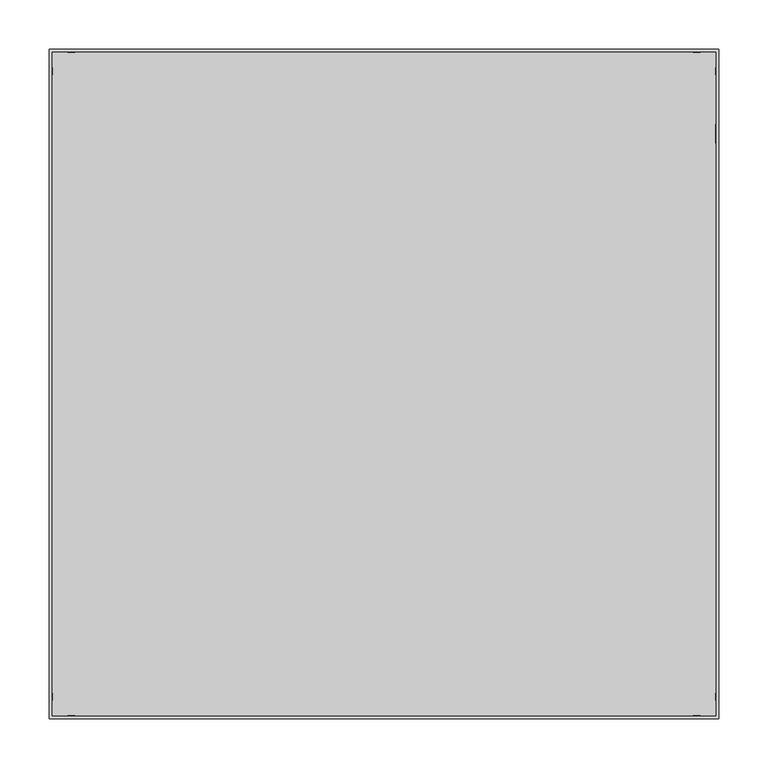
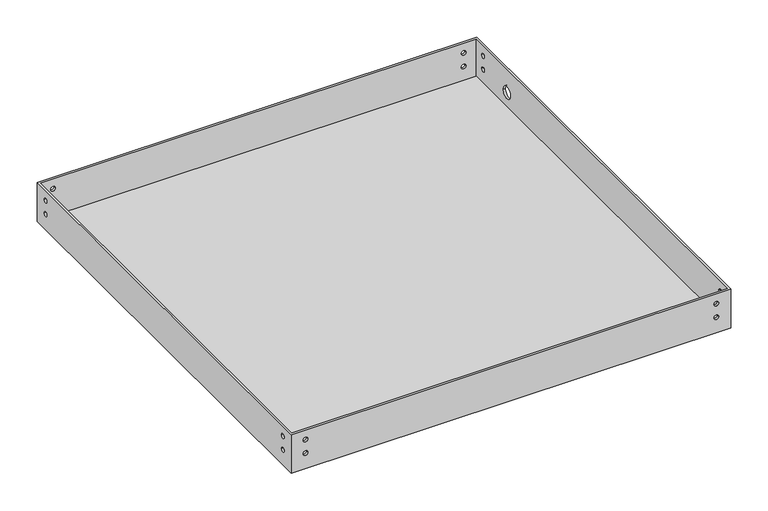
"""IFC4 building model written with IfcOpenShell, lengths in millimetres: proxy geometry, 50 SWHP-C : #50-SWHP-C."""

from ifc_helpers import new_model, si_unit, frame, origin, place, context, project, spatial, polyline, circle_curve, source, transform, mapped, element, save
from ifc_brep_helpers import plane_surface, revolved_surface, advanced_brep


def generic_models_5c8b9ebe(model_context):
    return source(origin(), model_context, "Body", "AdvancedBrep", [
        advanced_brep(
        [(336.55, -336.55, 3.175), (336.55, 336.55, 3.175), (-336.55, 336.55, 3.175), (-336.55, -336.55, 3.175), (339.725, -339.725, 63.5), (339.725, 339.725, 63.5), (-339.725, 339.725, 63.5), (-339.725, -339.725, 63.5), (336.55, 336.55, 63.5), (336.55, -336.55, 63.5), (-336.55, -336.55, 63.5), (-336.55, 336.55, 63.5), (339.725, -339.725, 0.0), (-339.725, -339.725, 0.0), (-339.725, 339.725, 0.0), (339.725, 339.725, 0.0), (336.55, -321.0687, 47.625), (336.55, -313.9313, 47.625), (336.55, -321.0687, 25.4), (336.55, -313.9313, 25.4), (336.55, 313.9313, 47.625), (336.55, 321.0687, 47.625), (336.55, 313.9313, 25.4), (336.55, 321.0687, 25.4), (336.55, 263.525, 25.9953125), (336.55, 244.475, 25.9953125), (-321.0687, -336.55, 47.625), (-313.9313, -336.55, 47.625), (-321.0687, -336.55, 25.4), (-313.9313, -336.55, 25.4), (313.9313, -336.55, 47.625), (321.0687, -336.55, 47.625), (313.9313, -336.55, 25.4), (321.0687, -336.55, 25.4), (-336.55, 321.0687, 47.625), (-336.55, 313.9313, 47.625), (-336.55, 321.0687, 25.4), (-336.55, 313.9313, 25.4), (-336.55, -313.9313, 47.625), (-336.55, -321.0687, 47.625), (-336.55, -313.9313, 25.4), (-336.55, -321.0687, 25.4), (-313.9313, 336.55, 47.625), (-321.0687, 336.55, 47.625), (-313.9313, 336.55, 25.4), (-321.0687, 336.55, 25.4), (321.0687, 336.55, 25.4), (313.9313, 336.55, 25.4), (321.0687, 336.55, 47.625), (313.9313, 336.55, 47.625), (339.725, -313.9313, 47.625), (339.725, -321.0687, 47.625), (339.725, -313.9313, 25.4), (339.725, -321.0687, 25.4), (339.725, 321.0687, 47.625), (339.725, 313.9313, 47.625), (339.725, 321.0687, 25.4), (339.725, 313.9313, 25.4), (339.725, 244.475, 25.9953125), (339.725, 263.525, 25.9953125), (-321.0687, 339.725, 47.625), (-313.9313, 339.725, 47.625), (-321.0687, 339.725, 25.4), (-313.9313, 339.725, 25.4), (313.9313, 339.725, 25.4), (321.0687, 339.725, 25.4), (313.9313, 339.725, 47.625), (321.0687, 339.725, 47.625), (-339.725, 313.9313, 47.625), (-339.725, 321.0687, 47.625), (-339.725, 313.9313, 25.4), (-339.725, 321.0687, 25.4), (-339.725, -321.0687, 47.625), (-339.725, -313.9313, 47.625), (-339.725, -321.0687, 25.4), (-339.725, -313.9313, 25.4), (-313.9313, -339.725, 47.625), (-321.0687, -339.725, 47.625), (-313.9313, -339.725, 25.4), (-321.0687, -339.725, 25.4), (321.0687, -339.725, 47.625), (313.9313, -339.725, 47.625), (321.0687, -339.725, 25.4), (313.9313, -339.725, 25.4)],
        [
            (0, 1),
            (1, 2),
            (2, 3),
            (3, 0),
            (4, 5),
            (5, 6),
            (6, 7),
            (7, 4),
            (8, 9),
            (9, 10),
            (10, 11),
            (11, 8),
            (12, 13),
            (13, 14),
            (14, 15),
            (15, 12),
            (8, 1),
            (0, 9),
            (16, 17, circle_curve(frame((336.55, -317.5, 47.625), z_axis=(1.0, 0.0, 0.0), x_axis=(0.0, -1.0, 0.0)), 3.5687)),
            (17, 16, circle_curve(frame((336.55, -317.5, 47.625), z_axis=(1.0, 0.0, 0.0), x_axis=(0.0, -1.0, 0.0)), 3.5687)),
            (18, 19, circle_curve(frame((336.55, -317.5, 25.4), z_axis=(1.0, 0.0, 0.0), x_axis=(0.0, -1.0, 0.0)), 3.5687)),
            (19, 18, circle_curve(frame((336.55, -317.5, 25.4), z_axis=(1.0, 0.0, 0.0), x_axis=(0.0, -1.0, 0.0)), 3.5687)),
            (20, 21, circle_curve(frame((336.55, 317.5, 47.625), z_axis=(1.0, 0.0, 0.0), x_axis=(0.0, -1.0, 0.0)), 3.5687)),
            (21, 20, circle_curve(frame((336.55, 317.5, 47.625), z_axis=(1.0, 0.0, 0.0), x_axis=(0.0, -1.0, 0.0)), 3.5687)),
            (22, 23, circle_curve(frame((336.55, 317.5, 25.4), z_axis=(1.0, 0.0, 0.0), x_axis=(0.0, -1.0, 0.0)), 3.5687)),
            (23, 22, circle_curve(frame((336.55, 317.5, 25.4), z_axis=(1.0, 0.0, 0.0), x_axis=(0.0, -1.0, 0.0)), 3.5687)),
            (24, 25, circle_curve(frame((336.55, 254.0, 25.9953125), z_axis=(1.0, 0.0, 0.0), x_axis=(0.0, 1.0, 0.0)), 9.525)),
            (25, 24, circle_curve(frame((336.55, 254.0, 25.9953125), z_axis=(1.0, 0.0, 0.0), x_axis=(0.0, 1.0, 0.0)), 9.525)),
            (3, 10),
            (26, 27, circle_curve(frame((-317.5, -336.55, 47.625), z_axis=(0.0, -1.0, 0.0), x_axis=(-1.0, 0.0, 0.0)), 3.5687)),
            (27, 26, circle_curve(frame((-317.5, -336.55, 47.625), z_axis=(0.0, -1.0, 0.0), x_axis=(-1.0, 0.0, 0.0)), 3.5687)),
            (28, 29, circle_curve(frame((-317.5, -336.55, 25.4), z_axis=(0.0, -1.0, 0.0), x_axis=(-1.0, 0.0, 0.0)), 3.5687)),
            (29, 28, circle_curve(frame((-317.5, -336.55, 25.4), z_axis=(0.0, -1.0, 0.0), x_axis=(-1.0, 0.0, 0.0)), 3.5687)),
            (30, 31, circle_curve(frame((317.5, -336.55, 47.625), z_axis=(0.0, -1.0, 0.0), x_axis=(-1.0, 0.0, 0.0)), 3.5687)),
            (31, 30, circle_curve(frame((317.5, -336.55, 47.625), z_axis=(0.0, -1.0, 0.0), x_axis=(-1.0, 0.0, 0.0)), 3.5687)),
            (32, 33, circle_curve(frame((317.5, -336.55, 25.4), z_axis=(0.0, -1.0, 0.0), x_axis=(-1.0, 0.0, 0.0)), 3.5687)),
            (33, 32, circle_curve(frame((317.5, -336.55, 25.4), z_axis=(0.0, -1.0, 0.0), x_axis=(-1.0, 0.0, 0.0)), 3.5687)),
            (2, 11),
            (34, 35, circle_curve(frame((-336.55, 317.5, 47.625), z_axis=(-1.0, 0.0, 0.0), x_axis=(0.0, -1.0, 0.0)), 3.5687)),
            (35, 34, circle_curve(frame((-336.55, 317.5, 47.625), z_axis=(-1.0, 0.0, 0.0), x_axis=(0.0, -1.0, 0.0)), 3.5687)),
            (36, 37, circle_curve(frame((-336.55, 317.5, 25.4), z_axis=(-1.0, 0.0, 0.0), x_axis=(0.0, -1.0, 0.0)), 3.5687)),
            (37, 36, circle_curve(frame((-336.55, 317.5, 25.4), z_axis=(-1.0, 0.0, 0.0), x_axis=(0.0, -1.0, 0.0)), 3.5687)),
            (38, 39, circle_curve(frame((-336.55, -317.5, 47.625), z_axis=(-1.0, 0.0, 0.0), x_axis=(0.0, -1.0, 0.0)), 3.5687)),
            (39, 38, circle_curve(frame((-336.55, -317.5, 47.625), z_axis=(-1.0, 0.0, 0.0), x_axis=(0.0, -1.0, 0.0)), 3.5687)),
            (40, 41, circle_curve(frame((-336.55, -317.5, 25.4), z_axis=(-1.0, 0.0, 0.0), x_axis=(0.0, -1.0, 0.0)), 3.5687)),
            (41, 40, circle_curve(frame((-336.55, -317.5, 25.4), z_axis=(-1.0, 0.0, 0.0), x_axis=(0.0, -1.0, 0.0)), 3.5687)),
            (42, 43, circle_curve(frame((-317.5, 336.55, 47.625), z_axis=(0.0, 1.0, 0.0), x_axis=(-1.0, 0.0, 0.0)), 3.5687)),
            (43, 42, circle_curve(frame((-317.5, 336.55, 47.625), z_axis=(0.0, 1.0, 0.0), x_axis=(-1.0, 0.0, 0.0)), 3.5687)),
            (44, 45, circle_curve(frame((-317.5, 336.55, 25.4), z_axis=(0.0, 1.0, 0.0), x_axis=(-1.0, 0.0, 0.0)), 3.5687)),
            (45, 44, circle_curve(frame((-317.5, 336.55, 25.4), z_axis=(0.0, 1.0, 0.0), x_axis=(-1.0, 0.0, 0.0)), 3.5687)),
            (46, 47, circle_curve(frame((317.5, 336.55, 25.4), z_axis=(0.0, 1.0, 0.0), x_axis=(-1.0, 0.0, 0.0)), 3.5687)),
            (47, 46, circle_curve(frame((317.5, 336.55, 25.4), z_axis=(0.0, 1.0, 0.0), x_axis=(-1.0, 0.0, 0.0)), 3.5687)),
            (48, 49, circle_curve(frame((317.5, 336.55, 47.625), z_axis=(0.0, 1.0, 0.0), x_axis=(-1.0, 0.0, 0.0)), 3.5687)),
            (49, 48, circle_curve(frame((317.5, 336.55, 47.625), z_axis=(0.0, 1.0, 0.0), x_axis=(-1.0, 0.0, 0.0)), 3.5687)),
            (4, 12),
            (15, 5),
            (50, 51, circle_curve(frame((339.725, -317.5, 47.625), z_axis=(-1.0, 0.0, 0.0), x_axis=(0.0, -1.0, 0.0)), 3.5687)),
            (51, 50, circle_curve(frame((339.725, -317.5, 47.625), z_axis=(-1.0, 0.0, 0.0), x_axis=(0.0, -1.0, 0.0)), 3.5687)),
            (52, 53, circle_curve(frame((339.725, -317.5, 25.4), z_axis=(-1.0, 0.0, 0.0), x_axis=(0.0, -1.0, 0.0)), 3.5687)),
            (53, 52, circle_curve(frame((339.725, -317.5, 25.4), z_axis=(-1.0, 0.0, 0.0), x_axis=(0.0, -1.0, 0.0)), 3.5687)),
            (54, 55, circle_curve(frame((339.725, 317.5, 47.625), z_axis=(-1.0, 0.0, 0.0), x_axis=(0.0, -1.0, 0.0)), 3.5687)),
            (55, 54, circle_curve(frame((339.725, 317.5, 47.625), z_axis=(-1.0, 0.0, 0.0), x_axis=(0.0, -1.0, 0.0)), 3.5687)),
            (56, 57, circle_curve(frame((339.725, 317.5, 25.4), z_axis=(-1.0, 0.0, 0.0), x_axis=(0.0, -1.0, 0.0)), 3.5687)),
            (57, 56, circle_curve(frame((339.725, 317.5, 25.4), z_axis=(-1.0, 0.0, 0.0), x_axis=(0.0, -1.0, 0.0)), 3.5687)),
            (58, 59, circle_curve(frame((339.725, 254.0, 25.9953125), z_axis=(-1.0, 0.0, 0.0), x_axis=(0.0, 1.0, 0.0)), 9.525)),
            (59, 58, circle_curve(frame((339.725, 254.0, 25.9953125), z_axis=(-1.0, 0.0, 0.0), x_axis=(0.0, 1.0, 0.0)), 9.525)),
            (14, 6),
            (60, 61, circle_curve(frame((-317.5, 339.725, 47.625), z_axis=(0.0, -1.0, 0.0), x_axis=(-1.0, 0.0, 0.0)), 3.5687)),
            (61, 60, circle_curve(frame((-317.5, 339.725, 47.625), z_axis=(0.0, -1.0, 0.0), x_axis=(-1.0, 0.0, 0.0)), 3.5687)),
            (62, 63, circle_curve(frame((-317.5, 339.725, 25.4), z_axis=(0.0, -1.0, 0.0), x_axis=(-1.0, 0.0, 0.0)), 3.5687)),
            (63, 62, circle_curve(frame((-317.5, 339.725, 25.4), z_axis=(0.0, -1.0, 0.0), x_axis=(-1.0, 0.0, 0.0)), 3.5687)),
            (64, 65, circle_curve(frame((317.5, 339.725, 25.4), z_axis=(0.0, -1.0, 0.0), x_axis=(-1.0, 0.0, 0.0)), 3.5687)),
            (65, 64, circle_curve(frame((317.5, 339.725, 25.4), z_axis=(0.0, -1.0, 0.0), x_axis=(-1.0, 0.0, 0.0)), 3.5687)),
            (66, 67, circle_curve(frame((317.5, 339.725, 47.625), z_axis=(0.0, -1.0, 0.0), x_axis=(-1.0, 0.0, 0.0)), 3.5687)),
            (67, 66, circle_curve(frame((317.5, 339.725, 47.625), z_axis=(0.0, -1.0, 0.0), x_axis=(-1.0, 0.0, 0.0)), 3.5687)),
            (13, 7),
            (68, 69, circle_curve(frame((-339.725, 317.5, 47.625), z_axis=(1.0, 0.0, 0.0), x_axis=(0.0, -1.0, 0.0)), 3.5687)),
            (69, 68, circle_curve(frame((-339.725, 317.5, 47.625), z_axis=(1.0, 0.0, 0.0), x_axis=(0.0, -1.0, 0.0)), 3.5687)),
            (70, 71, circle_curve(frame((-339.725, 317.5, 25.4), z_axis=(1.0, 0.0, 0.0), x_axis=(0.0, -1.0, 0.0)), 3.5687)),
            (71, 70, circle_curve(frame((-339.725, 317.5, 25.4), z_axis=(1.0, 0.0, 0.0), x_axis=(0.0, -1.0, 0.0)), 3.5687)),
            (72, 73, circle_curve(frame((-339.725, -317.5, 47.625), z_axis=(1.0, 0.0, 0.0), x_axis=(0.0, -1.0, 0.0)), 3.5687)),
            (73, 72, circle_curve(frame((-339.725, -317.5, 47.625), z_axis=(1.0, 0.0, 0.0), x_axis=(0.0, -1.0, 0.0)), 3.5687)),
            (74, 75, circle_curve(frame((-339.725, -317.5, 25.4), z_axis=(1.0, 0.0, 0.0), x_axis=(0.0, -1.0, 0.0)), 3.5687)),
            (75, 74, circle_curve(frame((-339.725, -317.5, 25.4), z_axis=(1.0, 0.0, 0.0), x_axis=(0.0, -1.0, 0.0)), 3.5687)),
            (76, 77, circle_curve(frame((-317.5, -339.725, 47.625), z_axis=(0.0, 1.0, 0.0), x_axis=(-1.0, 0.0, 0.0)), 3.5687)),
            (77, 76, circle_curve(frame((-317.5, -339.725, 47.625), z_axis=(0.0, 1.0, 0.0), x_axis=(-1.0, 0.0, 0.0)), 3.5687)),
            (78, 79, circle_curve(frame((-317.5, -339.725, 25.4), z_axis=(0.0, 1.0, 0.0), x_axis=(-1.0, 0.0, 0.0)), 3.5687)),
            (79, 78, circle_curve(frame((-317.5, -339.725, 25.4), z_axis=(0.0, 1.0, 0.0), x_axis=(-1.0, 0.0, 0.0)), 3.5687)),
            (80, 81, circle_curve(frame((317.5, -339.725, 47.625), z_axis=(0.0, 1.0, 0.0), x_axis=(-1.0, 0.0, 0.0)), 3.5687)),
            (81, 80, circle_curve(frame((317.5, -339.725, 47.625), z_axis=(0.0, 1.0, 0.0), x_axis=(-1.0, 0.0, 0.0)), 3.5687)),
            (82, 83, circle_curve(frame((317.5, -339.725, 25.4), z_axis=(0.0, 1.0, 0.0), x_axis=(-1.0, 0.0, 0.0)), 3.5687)),
            (83, 82, circle_curve(frame((317.5, -339.725, 25.4), z_axis=(0.0, 1.0, 0.0), x_axis=(-1.0, 0.0, 0.0)), 3.5687)),
            (34, 69),
            (68, 35),
            (36, 71),
            (70, 37),
            (38, 73),
            (72, 39),
            (40, 75),
            (74, 41),
            (76, 27),
            (26, 77),
            (78, 29),
            (28, 79),
            (80, 31),
            (30, 81),
            (82, 33),
            (32, 83),
            (50, 17),
            (16, 51),
            (52, 19),
            (18, 53),
            (54, 21),
            (20, 55),
            (56, 23),
            (22, 57),
            (42, 61),
            (60, 43),
            (44, 63),
            (62, 45),
            (46, 65),
            (64, 47),
            (48, 67),
            (66, 49),
            (24, 59),
            (58, 25),
        ],
        [
            plane_surface(frame((-336.55, 336.55, 3.175), z_axis=(0.0, 0.0, 1.0), x_axis=(-1.0, 0.0, 0.0))),
            plane_surface(frame((336.55, 336.55, 63.5), z_axis=(0.0, 0.0, 1.0), x_axis=(0.0, -1.0, 0.0))),
            plane_surface(frame((336.55, 336.55, 0.0), z_axis=(0.0, 0.0, -1.0), x_axis=(0.0, 1.0, 0.0))),
            plane_surface(frame((336.55, 336.55, 63.5), z_axis=(-1.0, 0.0, 0.0), x_axis=(0.0, 0.0, -1.0))),
            plane_surface(frame((336.55, -336.55, 63.5), z_axis=(0.0, 1.0, 0.0), x_axis=(0.0, 0.0, -1.0))),
            plane_surface(frame((-336.55, -336.55, 63.5), z_axis=(1.0, 0.0, 0.0), x_axis=(0.0, 0.0, -1.0))),
            plane_surface(frame((-336.55, 336.55, 63.5), z_axis=(0.0, -1.0, 0.0), x_axis=(0.0, 0.0, -1.0))),
            plane_surface(frame((339.725, -339.725, 63.5), z_axis=(1.0, 0.0, 0.0), x_axis=(0.0, 0.0, -1.0))),
            plane_surface(frame((339.725, 339.725, 63.5), z_axis=(0.0, 1.0, 0.0), x_axis=(0.0, 0.0, -1.0))),
            plane_surface(frame((-339.725, 339.725, 63.5), z_axis=(-1.0, 0.0, 0.0), x_axis=(0.0, 0.0, -1.0))),
            plane_surface(frame((-339.725, -339.725, 63.5), z_axis=(0.0, -1.0, 0.0), x_axis=(0.0, 0.0, -1.0))),
            revolved_surface(polyline([(-339.725, 313.9313, 47.625), (-336.55, 313.9313, 47.625)]), (-336.55, 317.5, 47.625), (-1.0, 0.0, 0.0)),
            revolved_surface(polyline([(-339.725, 313.9313, 25.4), (-336.55, 313.9313, 25.4)]), (-344.3986, 317.5, 25.4), (-1.0, 0.0, 0.0)),
            revolved_surface(polyline([(-339.725, -321.0687, 47.625), (-336.55, -321.0687, 47.625)]), (-336.55, -317.5, 47.625), (-1.0, 0.0, 0.0)),
            revolved_surface(polyline([(-339.725, -321.0687, 25.4), (-336.55, -321.0687, 25.4)]), (-344.3986, -317.5, 25.4), (-1.0, 0.0, 0.0)),
            revolved_surface(polyline([(-321.0687, -336.55, 47.625), (-321.0687, -339.725, 47.625)]), (-317.5, -344.3986, 47.625), (0.0, 1.0, 0.0)),
            revolved_surface(polyline([(-321.0687, -336.55, 25.4), (-321.0687, -339.725, 25.4)]), (-317.5, -344.3986, 25.4), (0.0, 1.0, 0.0)),
            revolved_surface(polyline([(313.9313, -336.55, 47.625), (313.9313, -339.725, 47.625)]), (317.5, -344.3986, 47.625), (0.0, 1.0, 0.0)),
            revolved_surface(polyline([(313.9313, -336.55, 25.4), (313.9313, -339.725, 25.4)]), (317.5, -344.3986, 25.4), (0.0, 1.0, 0.0)),
            revolved_surface(polyline([(336.55, -321.0687, 47.625), (339.725, -321.0687, 47.625)]), (344.3986, -317.5, 47.625), (-1.0, 0.0, 0.0)),
            revolved_surface(polyline([(336.55, -321.0687, 25.4), (339.725, -321.0687, 25.4)]), (344.3986, -317.5, 25.4), (-1.0, 0.0, 0.0)),
            revolved_surface(polyline([(336.55, 313.9313, 47.625), (339.725, 313.9313, 47.625)]), (344.3986, 317.5, 47.625), (-1.0, 0.0, 0.0)),
            revolved_surface(polyline([(336.55, 313.9313, 25.4), (339.725, 313.9313, 25.4)]), (344.3986, 317.5, 25.4), (-1.0, 0.0, 0.0)),
            revolved_surface(polyline([(-321.0687, 339.725, 47.625), (-321.0687, 336.55, 47.625)]), (-317.5, 336.55, 47.625), (0.0, 1.0, 0.0)),
            revolved_surface(polyline([(-321.0687, 339.725, 25.4), (-321.0687, 336.55, 25.4)]), (-317.5, 344.3986, 25.4), (0.0, 1.0, 0.0)),
            revolved_surface(polyline([(313.9313, 339.725, 25.4), (313.9313, 336.55, 25.4)]), (317.5, 336.55, 25.4), (0.0, 1.0, 0.0)),
            revolved_surface(polyline([(313.9313, 339.725, 47.625), (313.9313, 336.55, 47.625)]), (317.5, 344.3986, 47.625), (0.0, 1.0, 0.0)),
            revolved_surface(polyline([(339.725, 263.525, 25.9953125), (336.55, 263.525, 25.9953125)]), (336.55, 254.0, 25.9953125), (1.0, 0.0, 0.0)),
        ],
        [
            (0, [[1, 2, 3, 4]]),
            (1, [[5, 6, 7, 8], [9, 10, 11, 12]]),
            (2, [[13, 14, 15, 16]]),
            (3, [[-9, 17, -1, 18], [19, 20], [21, 22], [23, 24], [25, 26], [27, 28]]),
            (4, [[-10, -18, -4, 29], [30, 31], [32, 33], [34, 35], [36, 37]]),
            (5, [[-11, -29, -3, 38], [39, 40], [41, 42], [43, 44], [45, 46]]),
            (6, [[-12, -38, -2, -17], [47, 48], [49, 50], [51, 52], [53, 54]]),
            (7, [[-5, 55, -16, 56], [57, 58], [59, 60], [61, 62], [63, 64], [65, 66]]),
            (8, [[-6, -56, -15, 67], [68, 69], [70, 71], [72, 73], [74, 75]]),
            (9, [[-7, -67, -14, 76], [77, 78], [79, 80], [81, 82], [83, 84]]),
            (10, [[-8, -76, -13, -55], [85, 86], [87, 88], [89, 90], [91, 92]]),
            (11, [[93, -77, 94, -39]]),
            (11, [[-93, -40, -94, -78]]),
            (12, [[95, -79, 96, -41]]),
            (12, [[-95, -42, -96, -80]]),
            (13, [[97, -81, 98, -43]]),
            (13, [[-97, -44, -98, -82]]),
            (14, [[99, -83, 100, -45]]),
            (14, [[-99, -46, -100, -84]]),
            (15, [[101, -30, 102, -85]]),
            (15, [[-101, -86, -102, -31]]),
            (16, [[103, -32, 104, -87]]),
            (16, [[-103, -88, -104, -33]]),
            (17, [[105, -34, 106, -89]]),
            (17, [[-105, -90, -106, -35]]),
            (18, [[107, -36, 108, -91]]),
            (18, [[-107, -92, -108, -37]]),
            (19, [[109, -19, 110, -57]]),
            (19, [[-109, -58, -110, -20]]),
            (20, [[111, -21, 112, -59]]),
            (20, [[-111, -60, -112, -22]]),
            (21, [[113, -23, 114, -61]]),
            (21, [[-113, -62, -114, -24]]),
            (22, [[115, -25, 116, -63]]),
            (22, [[-115, -64, -116, -26]]),
            (23, [[117, -68, 118, -47]]),
            (23, [[-117, -48, -118, -69]]),
            (24, [[119, -70, 120, -49]]),
            (24, [[-119, -50, -120, -71]]),
            (25, [[121, -72, 122, -51]]),
            (25, [[-121, -52, -122, -73]]),
            (26, [[123, -74, 124, -53]]),
            (26, [[-123, -54, -124, -75]]),
            (27, [[125, -65, 126, -27]]),
            (27, [[-125, -28, -126, -66]]),
        ],
    ),
    ])


if __name__ == "__main__":
    model = new_model("IFC4")
    model_context = context("Model", 3, world=origin())
    ifc_project = project(units=[si_unit("LENGTHUNIT", "METRE", prefix="MILLI")], contexts=[model_context])
    site = spatial("IfcSite", under=ifc_project)
    building = spatial("IfcBuilding", under=site)
    placement = place(None, origin())
    generic_models_shape = generic_models_5c8b9ebe(model_context)
    element("IfcBuildingElementProxy", 1, Name="50 SWHP-C : #50-SWHP-C", ObjectType="50 SWHP-C : #50-SWHP-C", at=placement, inside=building, context=model_context, shape_type="MappedRepresentation", body=[
        mapped(generic_models_shape, transform((0.0, 0.0, 0.0), x_axis=(1.0, 0.0, 0.0), y_axis=(0.0, 1.0, 0.0), z_axis=(0.0, 0.0, 1.0))),
    ])
    save(model, "model.ifc")
